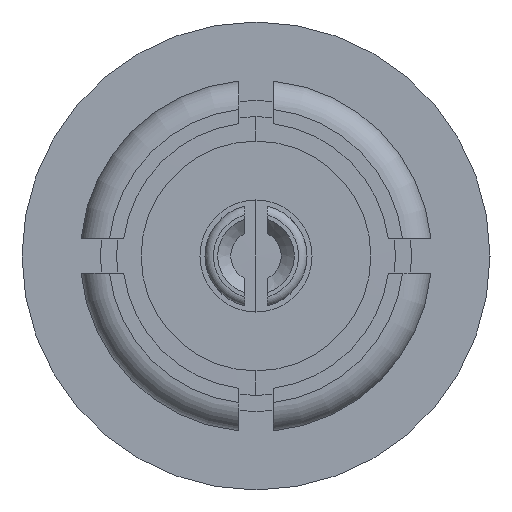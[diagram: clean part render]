
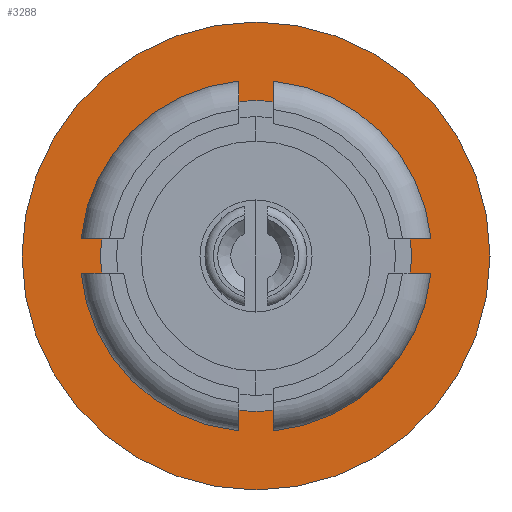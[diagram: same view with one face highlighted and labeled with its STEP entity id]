
A CAD part, left-side view. The second image highlights one B-rep face of the part: STEP entity #3288.
In plain terms, the highlighted planar face has unit normal (-1, 0, 0).
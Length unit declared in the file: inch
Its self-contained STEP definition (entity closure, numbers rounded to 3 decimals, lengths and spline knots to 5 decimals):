
#37 = PLANE ( 'NONE',  #3131 ) ;
#164 = CARTESIAN_POINT ( 'NONE',  ( 0.136, 0., 0.0825 ) ) ;
#182 = DIRECTION ( 'NONE',  ( 0., 0., 1. ) ) ;
#316 = CARTESIAN_POINT ( 'NONE',  ( 0.136, 0., 0. ) ) ;
#529 = DIRECTION ( 'NONE',  ( 0., 0., 1. ) ) ;
#547 = CIRCLE ( 'NONE', #819, 0.05475 ) ;
#587 = CARTESIAN_POINT ( 'NONE',  ( 0.136, 0., 0. ) ) ;
#687 = AXIS2_PLACEMENT_3D ( 'NONE', #1205, #3001, #3135 ) ;
#713 = CARTESIAN_POINT ( 'NONE',  ( 0.136, 0., 0.05475 ) ) ;
#718 = ORIENTED_EDGE ( 'NONE', *, *, #2965, .F. ) ;
#755 = CIRCLE ( 'NONE', #3225, 0.05475 ) ;
#789 = CARTESIAN_POINT ( 'NONE',  ( 0.136, 0., -0.05475 ) ) ;
#819 = AXIS2_PLACEMENT_3D ( 'NONE', #587, #3025, #529 ) ;
#1205 = CARTESIAN_POINT ( 'NONE',  ( 0.136, 0., 0. ) ) ;
#1290 = EDGE_CURVE ( 'NONE', #3177, #3440, #3207, .T. ) ;
#1441 = DIRECTION ( 'NONE',  ( 0., 0., -1. ) ) ;
#1771 = CARTESIAN_POINT ( 'NONE',  ( 0.136, 0.05475, 0. ) ) ;
#1779 = AXIS2_PLACEMENT_3D ( 'NONE', #316, #2400, #182 ) ;
#2059 = ORIENTED_EDGE ( 'NONE', *, *, #2238, .F. ) ;
#2082 = DIRECTION ( 'NONE',  ( -1., 0., 0. ) ) ;
#2238 = EDGE_CURVE ( 'NONE', #4049, #4308, #547, .T. ) ;
#2246 = CARTESIAN_POINT ( 'NONE',  ( 0.136, 0., -0.0825 ) ) ;
#2251 = FACE_BOUND ( 'NONE', #3924, .T. ) ;
#2400 = DIRECTION ( 'NONE',  ( -1., 0., 0. ) ) ;
#2695 = CIRCLE ( 'NONE', #1779, 0.0825 ) ;
#2756 = FACE_OUTER_BOUND ( 'NONE', #2800, .T. ) ;
#2800 = EDGE_LOOP ( 'NONE', ( #3241, #3079 ) ) ;
#2965 = EDGE_CURVE ( 'NONE', #4308, #4049, #755, .T. ) ;
#3001 = DIRECTION ( 'NONE',  ( -1., 0., 0. ) ) ;
#3025 = DIRECTION ( 'NONE',  ( -1., 0., 0. ) ) ;
#3079 = ORIENTED_EDGE ( 'NONE', *, *, #3734, .T. ) ;
#3131 = AXIS2_PLACEMENT_3D ( 'NONE', #1771, #4266, #1441 ) ;
#3135 = DIRECTION ( 'NONE',  ( 0., 0., 1. ) ) ;
#3177 = VERTEX_POINT ( 'NONE', #164 ) ;
#3207 = CIRCLE ( 'NONE', #687, 0.0825 ) ;
#3225 = AXIS2_PLACEMENT_3D ( 'NONE', #4580, #2082, #4228 ) ;
#3241 = ORIENTED_EDGE ( 'NONE', *, *, #1290, .T. ) ;
#3288 = ADVANCED_FACE ( 'NONE', ( #2251, #2756 ), #37, .F. ) ;
#3440 = VERTEX_POINT ( 'NONE', #2246 ) ;
#3734 = EDGE_CURVE ( 'NONE', #3440, #3177, #2695, .T. ) ;
#3924 = EDGE_LOOP ( 'NONE', ( #2059, #718 ) ) ;
#4049 = VERTEX_POINT ( 'NONE', #713 ) ;
#4228 = DIRECTION ( 'NONE',  ( 0., 0., 1. ) ) ;
#4266 = DIRECTION ( 'NONE',  ( 1., 0., 0. ) ) ;
#4308 = VERTEX_POINT ( 'NONE', #789 ) ;
#4580 = CARTESIAN_POINT ( 'NONE',  ( 0.136, 0., 0. ) ) ;
